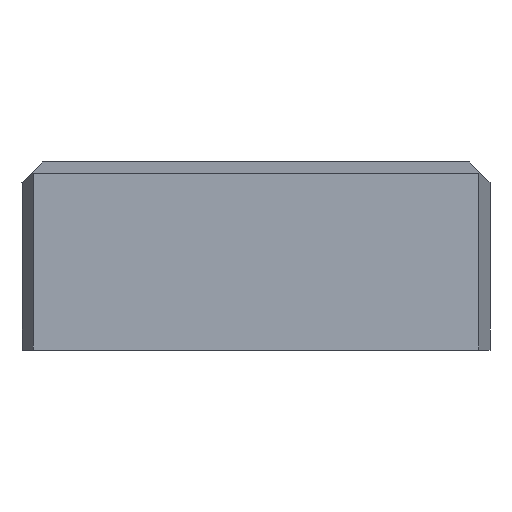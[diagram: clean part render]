
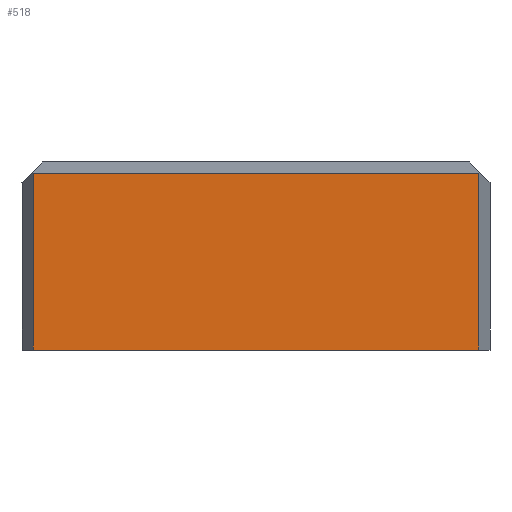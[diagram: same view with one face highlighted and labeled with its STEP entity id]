
A CAD part, front view. The second image highlights one B-rep face of the part: STEP entity #518.
In plain terms, the highlighted planar face has unit normal (0, -1, 0).
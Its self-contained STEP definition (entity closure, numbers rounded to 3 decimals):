
#98=CARTESIAN_POINT('Vertex',(53.321,0.,-45.)) ;
#101=CARTESIAN_POINT('Line Origine',(0.,0.,-45.)) ;
#105=CARTESIAN_POINT('Vertex',(-53.321,0.,-45.)) ;
#479=CARTESIAN_POINT('Vertex',(53.321,0.,-2.679)) ;
#482=CARTESIAN_POINT('Line Origine',(53.321,0.,-23.84)) ;
#495=CARTESIAN_POINT('Axis2P3D Location',(-53.321,0.,-45.)) ;
#500=CARTESIAN_POINT('Line Origine',(0.,0.,-2.679)) ;
#504=CARTESIAN_POINT('Vertex',(-53.321,0.,-2.679)) ;
#507=CARTESIAN_POINT('Line Origine',(-53.321,0.,-23.84)) ;
#102=DIRECTION('Vector Direction',(1.,0.,0.)) ;
#483=DIRECTION('Vector Direction',(0.,0.,1.)) ;
#496=DIRECTION('Axis2P3D Direction',(0.,-1.,0.)) ;
#497=DIRECTION('Axis2P3D XDirection',(0.,0.,-1.)) ;
#501=DIRECTION('Vector Direction',(-1.,0.,0.)) ;
#508=DIRECTION('Vector Direction',(0.,0.,1.)) ;
#498=AXIS2_PLACEMENT_3D('Plane Axis2P3D',#495,#496,#497) ;
#513=ORIENTED_EDGE('',*,*,#486,.T.) ;
#514=ORIENTED_EDGE('',*,*,#506,.T.) ;
#515=ORIENTED_EDGE('',*,*,#511,.F.) ;
#516=ORIENTED_EDGE('',*,*,#107,.T.) ;
#103=VECTOR('Line Direction',#102,1.) ;
#484=VECTOR('Line Direction',#483,1.) ;
#502=VECTOR('Line Direction',#501,1.) ;
#509=VECTOR('Line Direction',#508,1.) ;
#518=ADVANCED_FACE('A927-112X250X45',(#517),#499,.T.) ;
#107=EDGE_CURVE('',#106,#99,#104,.T.) ;
#486=EDGE_CURVE('',#99,#480,#485,.T.) ;
#506=EDGE_CURVE('',#480,#505,#503,.T.) ;
#511=EDGE_CURVE('',#106,#505,#510,.T.) ;
#512=EDGE_LOOP('',(#513,#514,#515,#516)) ;
#517=FACE_OUTER_BOUND('',#512,.T.) ;
#104=LINE('Line',#101,#103) ;
#485=LINE('Line',#482,#484) ;
#503=LINE('Line',#500,#502) ;
#510=LINE('Line',#507,#509) ;
#499=PLANE('Plane',#498) ;
#99=VERTEX_POINT('',#98) ;
#106=VERTEX_POINT('',#105) ;
#480=VERTEX_POINT('',#479) ;
#505=VERTEX_POINT('',#504) ;
